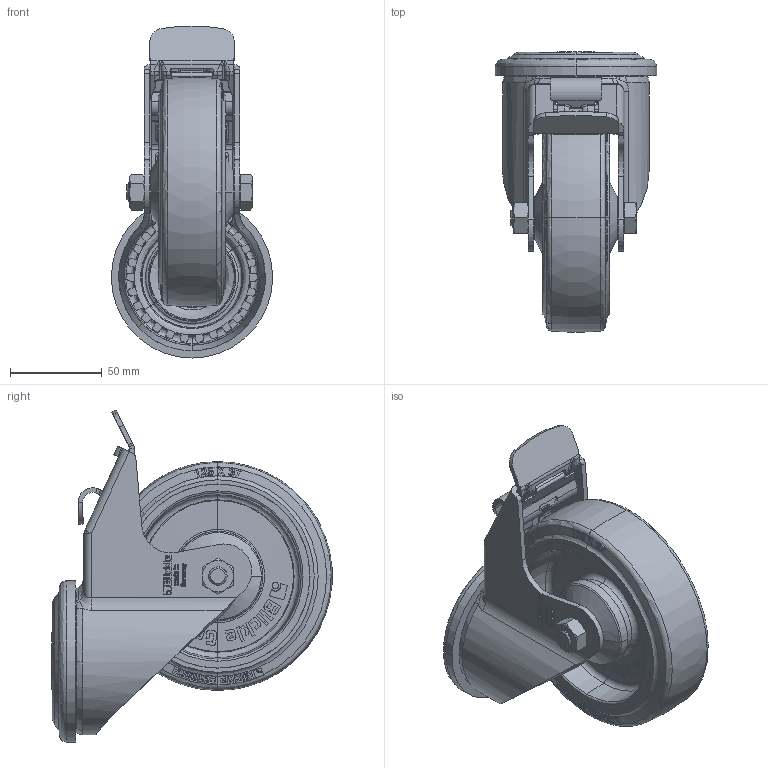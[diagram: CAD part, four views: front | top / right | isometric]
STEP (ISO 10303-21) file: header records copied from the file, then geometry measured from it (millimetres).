
FILE_DESCRIPTION (( 'STEP AP214' ), '1' );
FILE_NAME ('LKR-POEV_125K-FI-SB_851546-214.step', '2022-01-12T14:56:08', ( '' ), ( '' ), 'SwSTEP 2.0', 'SolidWorks 2018', '' );
FILE_SCHEMA (( 'AUTOMOTIVE_DESIGN' ));
Length unit declared in the file: millimetre
Products named in the file (5): POEV_125_3D_G16_POEV_125_10K-SB_591917; GH-LKR_80-125_GH-LKR-125x45-088-13-FIW_10x46; POEV_125_10K-SB_G16_3D; LKR-POEV_125K-FI-SB_851546-214; GH-LKR-125x45-088-13-FIW_10x46_G16_3D
Assembly tree (4 placements, depth 3):
  LKR-POEV_125K-FI-SB_851546-214
    GH-LKR_80-125_GH-LKR-125x45-088-13-FIW_10x46
      GH-LKR-125x45-088-13-FIW_10x46_G16_3D
    POEV_125_3D_G16_POEV_125_10K-SB_591917
      POEV_125_10K-SB_G16_3D
Bounding box: 88 x 152.74 x 181.04 mm (x, y, z)
Volume: 415807.4 mm3; surface area: 144568.1 mm2
Topology: 2 solids, 6 shells, 4414 faces, 11996 edges, 7838 vertices
Faces by surface type: bspline 1811, plane 1765, cylinder 440, cone 260, torus 138
Entity records: 198895 total; most frequent: CARTESIAN_POINT 70244, ORIENTED_EDGE 23974, DIRECTION 13425, EDGE_CURVE 11987, VERTEX_POINT 7838, LINE 5263, VECTOR 5263, B_SPLINE_CURVE_WITH_KNOTS 4859
